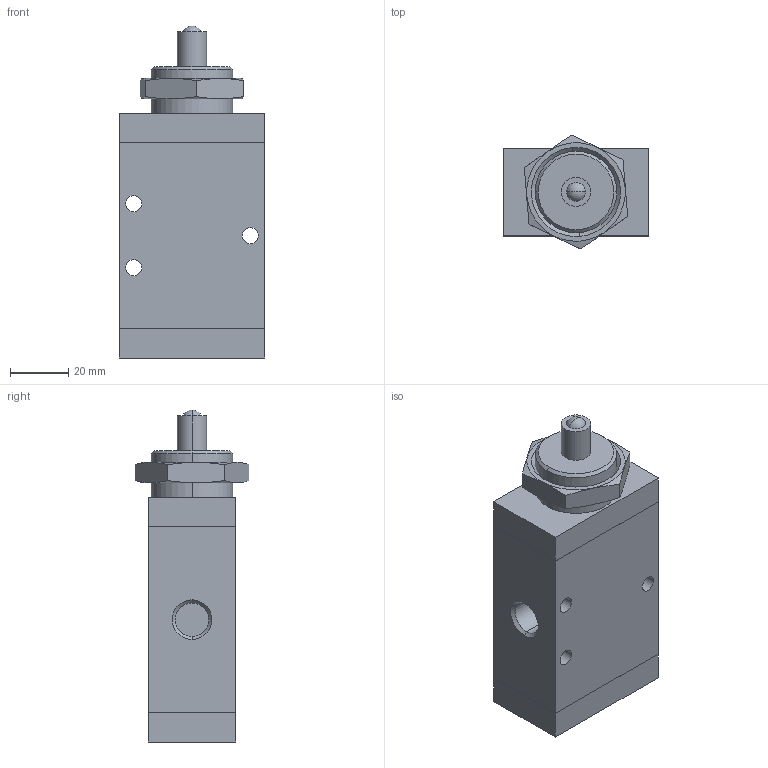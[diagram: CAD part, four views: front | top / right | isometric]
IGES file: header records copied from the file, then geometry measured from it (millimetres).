
Global section: file name: No Iges File Name specified; native system: AutoDesk Inventor R11.0; preprocessor: AutoDesk Inventor Iges Exporter R11.0; author: No Author specified; organization: No Organization specified; date: 20061219.113542; units: millimetre
Bounding box: 50 x 39.13 x 114 mm (x, y, z)
Volume: 133895.7 mm3; surface area: 22882.5 mm2
Topology: 2 solids, 2 shells, 65 faces, 150 edges, 95 vertices
Faces by surface type: plane 26, bspline 19, revolution 8, cone 6, cylinder 4, sphere 2
